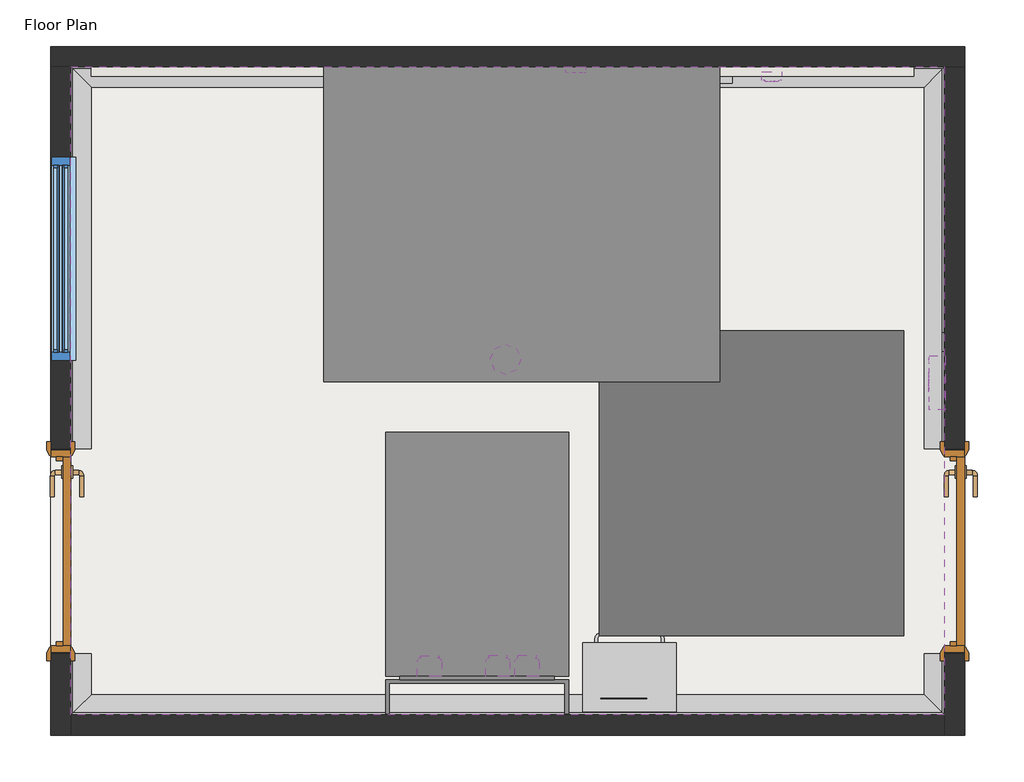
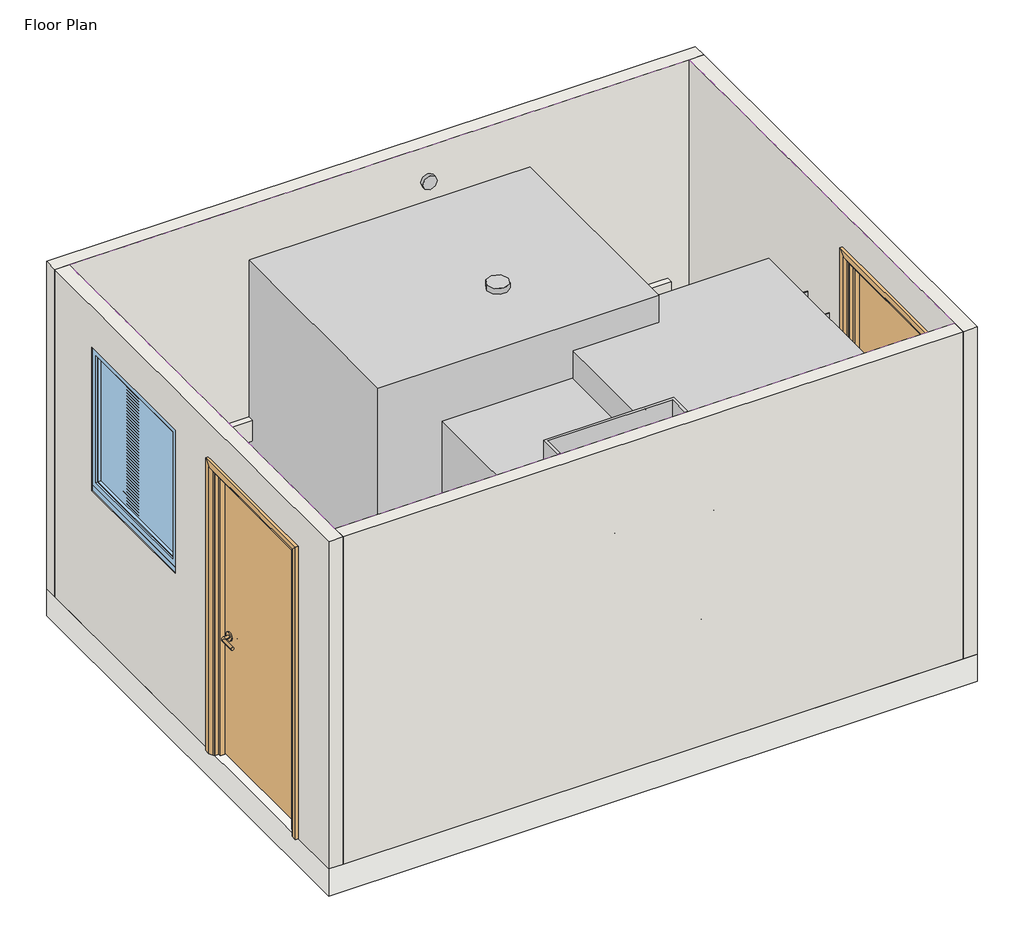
# One storey: 15 proxies, 9 furniture elements, 5 walls, 2 doors, 2 flow terminals, 1 covering, 1 slab, 1 window.
"""IFC4 building model written with IfcOpenShell, lengths in millimetres."""

from ifc_helpers import new_model, si_unit, frame, origin, origin_with_axes, place, context, project, spatial, polyline, circle_curve, ellipse_curve, outline, extrude, faceted_brep, transform, mapped, element, save
from ifc_brep_helpers import plane_surface, revolved_surface, advanced_brep
from components import generic_models_cdc84ac3, generic_models_abbf64a3, generic_models_972189fc, bimhealth_electrical_data_point_v1_type_1_559430e2, bimhealth_electrical_double_socket_v1_type_1_a33e6646, bimhealth_electrical_light_switch_v1_type_1_b5e59f8a, bimhealth_electrical_panic_alarm_v1_type_1_f5d69f13, bimhealth_electrical_smoke_detector_v1_bimhealth_electrical_fe9fcb6c, type_1_6de7a62d, door_1010x2110mm_f9eb5fde, flow_terminal_004a381b, flow_terminal_30861e1c, furniture_3d3374f5, furniture_385ba860, furniture_c6a9ce10, furniture_29951476, furniture_166ce8d1, furniture_26d36cfe, furniture_fb8e9059, furniture_1c857b10, window_e51dcf83

model = new_model("IFC4")

# Units and contexts
model_context = context("Model", 3, world=origin())
ifc_project = project(units=[si_unit("LENGTHUNIT", "METRE", prefix="MILLI")], contexts=[model_context])

# Site, building, storey
site = spatial("IfcSite", under=ifc_project)
building = spatial("IfcBuilding", under=site)
storey = spatial("IfcBuildingStorey", under=building, Name="Floor Plan", Elevation=0.0)

# Proxies
placement = place(None, origin())
element("IfcBuildingElementProxy", 1, Name="Wall Sweeps", at=placement, inside=storey, context=model_context, shape_type="AdvancedBrep", body=[
    advanced_brep(
    [(5.0, 5.0, 0.0), (105.0, 105.0, 0.0), (105.0, 105.0, 10.0), (15.0, 15.0, 100.0), (5.0, 5.0, 100.0), (5.0, 305.0, 0.0), (5.0, 305.0, 100.0), (15.0, 305.0, 100.0), (105.0, 305.0, 10.0), (105.0, 305.0, 0.0)],
    [
        (0, 1),
        (1, 2),
        (2, 3, ellipse_curve(frame((105.0, 105.0, 100.0), z_axis=(-0.707106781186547, 0.7071067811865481, 0.0), x_axis=(0.7071067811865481, 0.7071067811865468, 0.0)), 127.2792206, 90.0)),
        (3, 4),
        (4, 0),
        (5, 6),
        (6, 7),
        (7, 8, circle_curve(frame((105.0, 305.0, 100.0), z_axis=(0.0, -1.0, 0.0), x_axis=(1.0, 0.0, 0.0)), 90.0)),
        (8, 9),
        (9, 5),
        (4, 6),
        (5, 0),
        (3, 7),
        (2, 8),
        (1, 9),
    ],
    [
        plane_surface(frame((5.0, 5.0, 304.8), z_axis=(0.707106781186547, -0.7071067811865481, 0.0), x_axis=(0.7071067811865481, 0.707106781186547, 0.0))),
        plane_surface(frame((-95.4987562, 305.0, 0.0), z_axis=(0.0, 1.0, 0.0), x_axis=(0.0, 0.0, 1.0))),
        plane_surface(frame((5.0, 5.0, 100.0), z_axis=(-1.0, 0.0, 0.0), x_axis=(0.0, 1.0, 0.0))),
        plane_surface(frame((15.0, 15.0, 100.0), z_axis=(0.0, 0.0, 1.0), x_axis=(0.0, 1.0, 0.0))),
        revolved_surface(polyline([(195.0, 305.0, 100.0), (195.0, 15.0, 100.0)]), (105.0, 5.0, 100.0), (0.0, 1.0, 0.0)),
        plane_surface(frame((105.0, 105.0, 0.0), z_axis=(1.0, 0.0, 0.0), x_axis=(0.0, 1.0, 0.0))),
        plane_surface(frame((5.0, 5.0, 0.0), z_axis=(0.0, 0.0, -1.0), x_axis=(0.0, 1.0, 0.0))),
    ],
    [
        (0, [[1, 2, 3, 4, 5]]),
        (1, [[6, 7, 8, 9, 10]]),
        (2, [[-5, 11, -6, 12]]),
        (3, [[-4, 13, -7, -11]]),
        (4, [[-3, 14, -8, -13]]),
        (5, [[-2, 15, -9, -14]]),
        (6, [[-1, -12, -10, -15]]),
    ],
),
    advanced_brep(
    [(5.0, 1315.0, 0.0), (105.0, 1315.0, 0.0), (105.0, 1315.0, 10.0), (15.0, 1315.0, 100.0), (5.0, 1315.0, 100.0), (5.0, 3195.0, 0.0), (5.0, 3195.0, 100.0), (15.0, 3185.0, 100.0), (105.0, 3095.0, 10.0), (105.0, 3095.0, 0.0)],
    [
        (0, 1),
        (1, 2),
        (2, 3, circle_curve(frame((105.0, 1315.0, 100.0), z_axis=(0.0, 1.0, 0.0), x_axis=(1.0, 0.0, 0.0)), 90.0)),
        (3, 4),
        (4, 0),
        (5, 6),
        (6, 7),
        (7, 8, ellipse_curve(frame((105.0, 3095.0, 100.0), z_axis=(-0.7071067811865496, -0.7071067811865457, 0.0), x_axis=(-0.7071067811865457, 0.7071067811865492, 0.0)), 127.2792206, 90.0)),
        (8, 9),
        (9, 5),
        (0, 5),
        (9, 1),
        (8, 2),
        (7, 3),
        (6, 4),
    ],
    [
        plane_surface(frame((-95.4987562, 1315.0, 0.0), z_axis=(0.0, -1.0, 0.0), x_axis=(0.0, 0.0, 1.0))),
        plane_surface(frame((5.0, 3195.0, 304.8), z_axis=(0.7071067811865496, 0.7071067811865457, 0.0), x_axis=(0.7071067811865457, -0.7071067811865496, 0.0))),
        plane_surface(frame((5.0, 1315.0, 0.0), z_axis=(0.0, 0.0, -1.0), x_axis=(0.0, 1.0, 0.0))),
        plane_surface(frame((105.0, 1315.0, 0.0), z_axis=(1.0, 0.0, 0.0), x_axis=(0.0, 1.0, 0.0))),
        revolved_surface(polyline([(195.0, 3185.0, 100.0), (195.0, 1315.0, 100.0)]), (105.0, 1315.0, 100.0), (0.0, 1.0, 0.0)),
        plane_surface(frame((15.0, 1315.0, 100.0), z_axis=(0.0, 0.0, 1.0), x_axis=(0.0, 1.0, 0.0))),
        plane_surface(frame((5.0, 1315.0, 100.0), z_axis=(-1.0, 0.0, 0.0), x_axis=(0.0, 1.0, 0.0))),
    ],
    [
        (0, [[1, 2, 3, 4, 5]]),
        (1, [[6, 7, 8, 9, 10]]),
        (2, [[-1, 11, -10, 12]]),
        (3, [[-2, -12, -9, 13]]),
        (4, [[-3, -13, -8, 14]]),
        (5, [[-4, -14, -7, 15]]),
        (6, [[-5, -15, -6, -11]]),
    ],
),
])
element("IfcBuildingElementProxy", 2, Name="Wall Sweeps", at=placement, inside=storey, context=model_context, shape_type="AdvancedBrep", body=[
    advanced_brep(
    [(5.0, 3195.0, 0.0), (105.0, 3095.0, 0.0), (105.0, 3095.0, 10.0), (15.0, 3185.0, 100.0), (5.0, 3195.0, 100.0), (4305.0, 3195.0, 0.0), (4305.0, 3195.0, 100.0), (4295.0, 3185.0, 100.0), (4205.0, 3095.0, 10.0), (4205.0, 3095.0, 0.0)],
    [
        (0, 1),
        (1, 2),
        (2, 3, ellipse_curve(frame((105.0, 3095.0, 100.0), z_axis=(0.7071067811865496, 0.7071067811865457, 0.0), x_axis=(0.7071067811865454, -0.7071067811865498, 0.0)), 127.2792206, 90.0)),
        (3, 4),
        (4, 0),
        (5, 6),
        (6, 7),
        (7, 8, ellipse_curve(frame((4205.0, 3095.0, 100.0), z_axis=(-0.7071067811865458, 0.7071067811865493, 0.0), x_axis=(0.7071067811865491, 0.7071067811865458, 0.0)), 127.2792206, 90.0)),
        (8, 9),
        (9, 5),
        (4, 6),
        (5, 0),
        (3, 7),
        (2, 8),
        (1, 9),
    ],
    [
        plane_surface(frame((5.0, 3195.0, 304.8), z_axis=(-0.7071067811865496, -0.7071067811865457, 0.0), x_axis=(0.7071067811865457, -0.7071067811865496, 0.0))),
        plane_surface(frame((4305.0, 3195.0, 304.8), z_axis=(0.7071067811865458, -0.7071067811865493, 0.0), x_axis=(-0.7071067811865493, -0.7071067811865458, 0.0))),
        plane_surface(frame((5.0, 3195.0, 100.0), z_axis=(0.0, 1.0, 0.0), x_axis=(1.0, 0.0, 0.0))),
        plane_surface(frame((15.0, 3185.0, 100.0), z_axis=(0.0, 0.0, 1.0), x_axis=(1.0, 0.0, 0.0))),
        revolved_surface(polyline([(4295.0, 3005.0, 100.0), (15.0, 3005.0, 100.0)]), (5.0, 3095.0, 100.0), (1.0, 0.0, 0.0)),
        plane_surface(frame((105.0, 3095.0, 0.0), z_axis=(0.0, -1.0, 0.0), x_axis=(1.0, 0.0, 0.0))),
        plane_surface(frame((5.0, 3195.0, 0.0), z_axis=(0.0, 0.0, -1.0), x_axis=(1.0, 0.0, 0.0))),
    ],
    [
        (0, [[1, 2, 3, 4, 5]]),
        (1, [[6, 7, 8, 9, 10]]),
        (2, [[-5, 11, -6, 12]]),
        (3, [[-4, 13, -7, -11]]),
        (4, [[-3, 14, -8, -13]]),
        (5, [[-2, 15, -9, -14]]),
        (6, [[-1, -12, -10, -15]]),
    ],
),
])
element("IfcBuildingElementProxy", 3, Name="Wall Sweeps", at=placement, inside=storey, context=model_context, shape_type="AdvancedBrep", body=[
    advanced_brep(
    [(4305.0, 3195.0, 0.0), (4205.0, 3095.0, 0.0), (4205.0, 3095.0, 10.0), (4295.0, 3185.0, 100.0), (4305.0, 3195.0, 100.0), (4305.0, 1315.0, 0.0), (4305.0, 1315.0, 100.0), (4295.0, 1315.0, 100.0), (4205.0, 1315.0, 10.0), (4205.0, 1315.0, 0.0)],
    [
        (0, 1),
        (1, 2),
        (2, 3, ellipse_curve(frame((4205.0, 3095.0, 100.0), z_axis=(0.7071067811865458, -0.7071067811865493, 0.0), x_axis=(-0.7071067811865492, -0.7071067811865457, 0.0)), 127.2792206, 90.0)),
        (3, 4),
        (4, 0),
        (5, 6),
        (6, 7),
        (7, 8, circle_curve(frame((4205.0, 1315.0, 100.0), z_axis=(0.0, 1.0, 0.0), x_axis=(-1.0, 0.0, 0.0)), 90.0)),
        (8, 9),
        (9, 5),
        (4, 6),
        (5, 0),
        (3, 7),
        (2, 8),
        (1, 9),
    ],
    [
        plane_surface(frame((4305.0, 3195.0, 304.8), z_axis=(-0.7071067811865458, 0.7071067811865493, 0.0), x_axis=(-0.7071067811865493, -0.7071067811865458, 0.0))),
        plane_surface(frame((4204.5012438, 1315.0, 0.0), z_axis=(0.0, -1.0, 0.0), x_axis=(0.0, 0.0, -1.0))),
        plane_surface(frame((4305.0, 3195.0, 100.0), z_axis=(1.0, 0.0, 0.0), x_axis=(0.0, -1.0, 0.0))),
        plane_surface(frame((4295.0, 3185.0, 100.0), z_axis=(0.0, 0.0, 1.0), x_axis=(0.0, -1.0, 0.0))),
        revolved_surface(polyline([(4115.0, 1315.0, 100.0), (4115.0, 3185.0, 100.0)]), (4205.0, 3195.0, 100.0), (0.0, -1.0, 0.0)),
        plane_surface(frame((4205.0, 3095.0, 0.0), z_axis=(-1.0, 0.0, 0.0), x_axis=(0.0, -1.0, 0.0))),
        plane_surface(frame((4305.0, 3195.0, 0.0), z_axis=(0.0, 0.0, -1.0), x_axis=(0.0, -1.0, 0.0))),
    ],
    [
        (0, [[1, 2, 3, 4, 5]]),
        (1, [[6, 7, 8, 9, 10]]),
        (2, [[-5, 11, -6, 12]]),
        (3, [[-4, 13, -7, -11]]),
        (4, [[-3, 14, -8, -13]]),
        (5, [[-2, 15, -9, -14]]),
        (6, [[-1, -12, -10, -15]]),
    ],
),
    advanced_brep(
    [(4305.0, 305.0, 0.0), (4205.0, 305.0, 0.0), (4205.0, 305.0, 10.0), (4295.0, 305.0, 100.0), (4305.0, 305.0, 100.0), (4305.0, 5.0, 0.0), (4305.0, 5.0, 100.0), (4295.0, 15.0, 100.0), (4205.0, 105.0, 10.0), (4205.0, 105.0, 0.0)],
    [
        (0, 1),
        (1, 2),
        (2, 3, circle_curve(frame((4205.0, 305.0, 100.0), z_axis=(0.0, -1.0, 0.0), x_axis=(-1.0, 0.0, 0.0)), 90.0)),
        (3, 4),
        (4, 0),
        (5, 6),
        (6, 7),
        (7, 8, ellipse_curve(frame((4205.0, 105.0, 100.0), z_axis=(0.7071067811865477, 0.7071067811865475, 0.0), x_axis=(0.7071067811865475, -0.7071067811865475, 0.0)), 127.2792206, 90.0)),
        (8, 9),
        (9, 5),
        (0, 5),
        (9, 1),
        (8, 2),
        (7, 3),
        (6, 4),
    ],
    [
        plane_surface(frame((4204.5012438, 305.0, 0.0), z_axis=(0.0, 1.0, 0.0), x_axis=(0.0, 0.0, -1.0))),
        plane_surface(frame((4305.0, 5.0, 304.8), z_axis=(-0.7071067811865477, -0.7071067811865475, 0.0), x_axis=(-0.7071067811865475, 0.7071067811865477, 0.0))),
        plane_surface(frame((4305.0, 305.0, 0.0), z_axis=(0.0, 0.0, -1.0), x_axis=(0.0, -1.0, 0.0))),
        plane_surface(frame((4205.0, 305.0, 0.0), z_axis=(-1.0, 0.0, 0.0), x_axis=(0.0, -1.0, 0.0))),
        revolved_surface(polyline([(4115.0, 15.0, 100.0), (4115.0, 305.0, 100.0)]), (4205.0, 305.0, 100.0), (0.0, -1.0, 0.0)),
        plane_surface(frame((4295.0, 305.0, 100.0), z_axis=(0.0, 0.0, 1.0), x_axis=(0.0, -1.0, 0.0))),
        plane_surface(frame((4305.0, 305.0, 100.0), z_axis=(1.0, 0.0, 0.0), x_axis=(0.0, -1.0, 0.0))),
    ],
    [
        (0, [[1, 2, 3, 4, 5]]),
        (1, [[6, 7, 8, 9, 10]]),
        (2, [[-1, 11, -10, 12]]),
        (3, [[-2, -12, -9, 13]]),
        (4, [[-3, -13, -8, 14]]),
        (5, [[-4, -14, -7, 15]]),
        (6, [[-5, -15, -6, -11]]),
    ],
),
])
element("IfcBuildingElementProxy", 4, Name="Wall Sweeps", at=placement, inside=storey, context=model_context, shape_type="AdvancedBrep", body=[
    advanced_brep(
    [(4305.0, 5.0, 0.0), (4205.0, 105.0, 0.0), (4205.0, 105.0, 10.0), (4295.0, 15.0, 100.0), (4305.0, 5.0, 100.0), (5.0, 5.0, 0.0), (5.0, 5.0, 100.0), (15.0, 15.0, 100.0), (105.0, 105.0, 10.0), (105.0, 105.0, 0.0)],
    [
        (0, 1),
        (1, 2),
        (2, 3, ellipse_curve(frame((4205.0, 105.0, 100.0), z_axis=(-0.7071067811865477, -0.7071067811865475, 0.0), x_axis=(-0.7071067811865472, 0.7071067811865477, 0.0)), 127.2792206, 90.0)),
        (3, 4),
        (4, 0),
        (5, 6),
        (6, 7),
        (7, 8, ellipse_curve(frame((105.0, 105.0, 100.0), z_axis=(0.707106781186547, -0.7071067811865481, 0.0), x_axis=(-0.7071067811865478, -0.707106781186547, 0.0)), 127.2792206, 90.0)),
        (8, 9),
        (9, 5),
        (4, 6),
        (5, 0),
        (3, 7),
        (2, 8),
        (1, 9),
    ],
    [
        plane_surface(frame((4305.0, 5.0, 304.8), z_axis=(0.7071067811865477, 0.7071067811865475, 0.0), x_axis=(-0.7071067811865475, 0.7071067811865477, 0.0))),
        plane_surface(frame((5.0, 5.0, 304.8), z_axis=(-0.707106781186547, 0.7071067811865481, 0.0), x_axis=(0.7071067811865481, 0.707106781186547, 0.0))),
        plane_surface(frame((4305.0, 5.0, 100.0), z_axis=(0.0, -1.0, 0.0), x_axis=(-1.0, 0.0, 0.0))),
        plane_surface(frame((4295.0, 15.0, 100.0), z_axis=(0.0, 0.0, 1.0), x_axis=(-1.0, 0.0, 0.0))),
        revolved_surface(polyline([(15.0, 195.0, 100.0), (4295.0, 195.0, 100.0)]), (4305.0, 105.0, 100.0), (-1.0, 0.0, 0.0)),
        plane_surface(frame((4205.0, 105.0, 0.0), z_axis=(0.0, 1.0, 0.0), x_axis=(-1.0, 0.0, 0.0))),
        plane_surface(frame((4305.0, 5.0, 0.0), z_axis=(0.0, 0.0, -1.0), x_axis=(-1.0, 0.0, 0.0))),
    ],
    [
        (0, [[1, 2, 3, 4, 5]]),
        (1, [[6, 7, 8, 9, 10]]),
        (2, [[-5, 11, -6, 12]]),
        (3, [[-4, 13, -7, -11]]),
        (4, [[-3, 14, -8, -13]]),
        (5, [[-2, 15, -9, -14]]),
        (6, [[-1, -12, -10, -15]]),
    ],
),
])
generic_models_shape = generic_models_cdc84ac3(model_context)
element("IfcBuildingElementProxy", 5, Name="BIMHealth-Glove_Dispenser-LOD2A-v1 : BIMHealth-Glove_Dispenser-LOD2A-v1", ObjectType="BIMHealth-Glove_Dispenser-LOD2A-v1 : BIMHealth-Glove_Dispenser-LOD2A-v1", at=placement, inside=storey, context=model_context, shape_type="MappedRepresentation", body=[
    mapped(generic_models_shape, transform((4310.0, 1773.0, 0.0), x_axis=(0.0, -1.0000000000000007, 0.0), y_axis=(1.0000000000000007, 0.0, 0.0), z_axis=(0.0, 0.0, 1.0))),
])
generic_models_2_shape = generic_models_abbf64a3(model_context)
element("IfcBuildingElementProxy", 6, Name="BIMHealth-Hand_Cream_Dispenser-LOD2A-v1 : BIMHealth-Hand_Cream_Dispenser-LOD2A-v1", ObjectType="BIMHealth-Hand_Cream_Dispenser-LOD2A-v1 : BIMHealth-Hand_Cream_Dispenser-LOD2A-v1", at=placement, inside=storey, context=model_context, shape_type="MappedRepresentation", body=[
    mapped(generic_models_2_shape, transform((2166.6115799, 196.0, 150.0), x_axis=(-1.0000000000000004, 0.0, 0.0), y_axis=(0.0, -1.0000000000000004, 0.0), z_axis=(0.0, 0.0, 1.0))),
])
generic_models_3_shape = generic_models_972189fc(model_context)
element("IfcBuildingElementProxy", 7, Name="BIMHealth-Wheelchair_Zone-LOD2A-v1 : BIMHealth-Wheelchair_Zone-LOD2A-v1", ObjectType="BIMHealth-Wheelchair_Zone-LOD2A-v1 : BIMHealth-Wheelchair_Zone-LOD2A-v1", at=placement, inside=storey, context=model_context, shape_type="MappedRepresentation", body=[
    mapped(generic_models_3_shape, transform((2605.0, 1895.0, 0.0), x_axis=(1.0, 0.0, 0.0), y_axis=(0.0, 1.0, 0.0), z_axis=(0.0, 0.0, 1.0))),
])
bimhealth_electrical_data_point_v1_type_1_shape = bimhealth_electrical_data_point_v1_type_1_559430e2(model_context)
element("IfcBuildingElementProxy", 8, Name="BIMHealth-Electrical-Data_Point-v1 : Type 1", ObjectType="BIMHealth-Electrical-Data_Point-v1 : Type 1", at=placement, inside=storey, context=model_context, shape_type="MappedRepresentation", body=[
    mapped(bimhealth_electrical_data_point_v1_type_1_shape, transform((2246.3797993, 3175.0, -15.0), x_axis=(-1.0, 0.0, 0.0), y_axis=(0.0, -1.0, 0.0), z_axis=(0.0, 0.0, 1.0))),
])
bimhealth_electrical_double_socket_v1_type_1_shape = bimhealth_electrical_double_socket_v1_type_1_a33e6646(model_context)
element("IfcBuildingElementProxy", 9, Name="BIMHealth-Electrical-Double_Socket-v1 : Type 1", ObjectType="BIMHealth-Electrical-Double_Socket-v1 : Type 1", at=placement, inside=storey, context=model_context, shape_type="MappedRepresentation", body=[
    mapped(bimhealth_electrical_double_socket_v1_type_1_shape, transform((3186.3797993, 3175.0, 285.0), x_axis=(-1.0, 0.0, 0.0), y_axis=(0.0, -1.0, 0.0), z_axis=(0.0, 0.0, 1.0))),
])
element("IfcBuildingElementProxy", 10, Name="BIMHealth-Electrical-Double_Socket-v1 : Type 1", ObjectType="BIMHealth-Electrical-Double_Socket-v1 : Type 1", at=placement, inside=storey, context=model_context, shape_type="MappedRepresentation", body=[
    mapped(bimhealth_electrical_double_socket_v1_type_1_shape, transform((3386.3797993, 3175.0, 285.0), x_axis=(-1.0, 0.0, 0.0), y_axis=(0.0, -1.0, 0.0), z_axis=(0.0, 0.0, 1.0))),
])
bimhealth_electrical_light_switch_v1_type_1_shape = bimhealth_electrical_light_switch_v1_type_1_b5e59f8a(model_context)
element("IfcBuildingElementProxy", 11, Name="BIMHealth-Electrical-Light_Switch-v1 : Type 1", ObjectType="BIMHealth-Electrical-Light_Switch-v1 : Type 1", at=placement, inside=storey, context=model_context, shape_type="MappedRepresentation", body=[
    mapped(bimhealth_electrical_light_switch_v1_type_1_shape, transform((4355.0, 1670.0, -60.0), x_axis=(0.0, 1.0, 0.0), y_axis=(-1.0, 0.0, 0.0), z_axis=(0.0, 0.0, 1.0))),
])
bimhealth_electrical_panic_alarm_v1_type_1_shape = bimhealth_electrical_panic_alarm_v1_type_1_f5d69f13(model_context)
element("IfcBuildingElementProxy", 12, Name="BIMHealth-Electrical-Panic_Alarm-v1 : Type 1", ObjectType="BIMHealth-Electrical-Panic_Alarm-v1 : Type 1", at=placement, inside=storey, context=model_context, shape_type="MappedRepresentation", body=[
    mapped(bimhealth_electrical_panic_alarm_v1_type_1_shape, transform((3630.0, 3245.0, 0.0), x_axis=(-1.0, 0.0, 0.0), y_axis=(0.0, -1.0, 0.0), z_axis=(0.0, 0.0, 1.0))),
])
bimhealth_electrical_smoke_detector_v1_bimhealth_electrical_shape = bimhealth_electrical_smoke_detector_v1_bimhealth_electrical_fe9fcb6c(model_context)
element("IfcBuildingElementProxy", 13, Name="BIMHealth-Electrical-Smoke_Detector-v1 : BIMHealth-Electrical-Smoke_Detector-v1", ObjectType="BIMHealth-Electrical-Smoke_Detector-v1 : BIMHealth-Electrical-Smoke_Detector-v1", at=placement, inside=storey, context=model_context, shape_type="MappedRepresentation", body=[
    mapped(bimhealth_electrical_smoke_detector_v1_bimhealth_electrical_shape, transform((2145.0, 1755.0, -38.4), x_axis=(1.0, 0.0, 0.0), y_axis=(0.0, 1.0, 0.0), z_axis=(0.0, 0.0, 1.0))),
])
element("IfcBuildingElementProxy", 14, Name="BIMHealth-Electrical-Telephone_Point-v1 : Type 1", ObjectType="BIMHealth-Electrical-Telephone_Point-v1 : Type 1", at=placement, inside=storey, context=model_context, shape_type="MappedRepresentation", body=[
    mapped(bimhealth_electrical_data_point_v1_type_1_shape, transform((2436.3797993, 3175.0, -15.0), x_axis=(-1.0, 0.0, 0.0), y_axis=(0.0, -1.0, 0.0), z_axis=(0.0, 0.0, 1.0))),
])
type_1_shape = type_1_6de7a62d(model_context)
element("IfcBuildingElementProxy", 15, Name="BIMHealth-Electrical-Alarm_Sounder-v1 : Type 1", ObjectType="BIMHealth-Electrical-Alarm_Sounder-v1 : Type 1", at=placement, inside=storey, context=model_context, shape_type="MappedRepresentation", body=[
    mapped(type_1_shape, transform((2665.0, 3245.0, 0.0), x_axis=(-1.0, 0.0, 0.0), y_axis=(0.0, -1.0, 0.0), z_axis=(0.0, 0.0, 1.0))),
])

# Covering
element("IfcCovering", 16, ObjectType="BIMHealth - Generic Ceiling", at=placement, inside=storey, context=model_context, shape_type="SweptSolid", body=[
    extrude(outline(polyline([(4305.0, 3195.0), (4305.0, 5.0), (5.0, 5.0), (5.0, 3195.0), (4305.0, 3195.0)])), frame((0.0, 0.0, 2400.0), z_axis=(0.0, 0.0, 1.0), x_axis=(1.0, 0.0, 0.0)), (0.0, 0.0, 1.0), 52.0),
])

# Doors
door_1010x2110mm_shape = door_1010x2110mm_f9eb5fde(model_context)
element("IfcDoor", 17, ObjectType="BIMHealth-Single_Door-LOD2A-v1 : 1010x2110mm", at=placement, inside=storey, context=model_context, shape_type="MappedRepresentation", body=[
    mapped(door_1010x2110mm_shape, transform((-45.0, 810.0, 0.0), x_axis=(0.0, -1.0, 0.0), y_axis=(1.0, 0.0, 0.0), z_axis=(0.0, 0.0, 1.0))),
])
element("IfcDoor", 18, ObjectType="BIMHealth-Single_Door-LOD2A-v1 : 1010x2110mm", at=placement, inside=storey, context=model_context, shape_type="MappedRepresentation", body=[
    mapped(door_1010x2110mm_shape, transform((4355.0, 810.0, 0.0), x_axis=(0.0, -1.0, 0.0), y_axis=(1.0, 0.0, 0.0), z_axis=(0.0, 0.0, 1.0))),
])

# Flow terminals
flow_terminal_shape = flow_terminal_004a381b(model_context)
element("IfcFlowTerminal", 19, ObjectType="BIMHealth-Taps_IPS-LOD2A-v1 : BIMHealth-Taps_IPS-LOD2A-v1", at=placement, inside=storey, context=model_context, shape_type="MappedRepresentation", body=[
    mapped(flow_terminal_shape, transform((2165.0, 254.1543621, 1022.0), x_axis=(-1.0000000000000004, 0.0, 0.0), y_axis=(0.0, -1.0000000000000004, 0.0), z_axis=(0.0, 0.0, 1.0))),
])
flow_terminal_2_shape = flow_terminal_30861e1c(model_context)
element("IfcFlowTerminal", 20, ObjectType="BIMHealth-Wash_basin-LOD2A-v1 : BIMHealth-Wash_basin-LOD2A-v1", at=placement, inside=storey, context=model_context, shape_type="MappedRepresentation", body=[
    mapped(flow_terminal_2_shape, transform((2255.0, 196.0, 500.0), x_axis=(-1.0, 0.0, 0.0), y_axis=(0.0, -1.0, 0.0), z_axis=(0.0, 0.0, 1.0))),
])

# Furniture
furniture_shape = furniture_3d3374f5(model_context)
element("IfcFurniture", 21, ObjectType="BIMHealth-Washstation-LOD2A-v1 : BIMHealth-Washstation-LOD2A-v1", at=placement, inside=storey, context=model_context, shape_type="MappedRepresentation", body=[
    mapped(furniture_shape, transform((1555.0, 10.0, 0.0), x_axis=(-1.0000000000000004, 0.0, 0.0), y_axis=(0.0, -1.0000000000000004, 0.0), z_axis=(0.0, 0.0, 1.0))),
])
furniture_2_shape = furniture_385ba860(model_context)
element("IfcFurniture", 22, ObjectType="BIMHealth-Alcohol_gel_dispenser-LOD2A-v1 : BIMHealth-Alcohol_gel_dispenser-LOD2A-v1", at=placement, inside=storey, context=model_context, shape_type="MappedRepresentation", body=[
    mapped(furniture_2_shape, transform((1830.0732788, 196.0, 150.0), x_axis=(-1.0, 0.0, 0.0), y_axis=(0.0, -1.0, 0.0), z_axis=(0.0, 0.0, 1.0))),
])
element("IfcFurniture", 23, ObjectType="BIMHealth-Alcohol_gel_dispenser-LOD2A-v1 : BIMHealth-Alcohol_gel_dispenser-LOD2A-v1", at=placement, inside=storey, context=model_context, shape_type="MappedRepresentation", body=[
    mapped(furniture_2_shape, transform((2626.2841824, 3200.0, -300.0), x_axis=(1.0, 0.0, 0.0), y_axis=(0.0, 1.0, 0.0), z_axis=(0.0, 0.0, 1.0))),
])
furniture_3_shape = furniture_c6a9ce10(model_context)
element("IfcFurniture", 24, ObjectType="BIMHealth-Bin_Clinical_Foot_Operated-LOD2A-v1 : BIMHealth-Bin_Clinical_Foot_Operated-LOD2A-v1", at=placement, inside=storey, context=model_context, shape_type="MappedRepresentation", body=[
    mapped(furniture_3_shape, transform((2975.0, 30.0, 0.0), x_axis=(-1.0000000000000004, 0.0, 0.0), y_axis=(0.0, -1.0000000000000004, 0.0), z_axis=(0.0, 0.0, 1.0))),
])
furniture_4_shape = furniture_29951476(model_context)
element("IfcFurniture", 25, ObjectType="BIMHealth-Mirror_Consultation-LOD2A-v1 : BIMHealth-Mirror_Consultation-LOD2A-v1", at=placement, inside=storey, context=model_context, shape_type="MappedRepresentation", body=[
    mapped(furniture_4_shape, transform((3305.0, 5.0, 0.0), x_axis=(1.0, 0.0, 0.0), y_axis=(0.0, 1.0, 0.0), z_axis=(0.0, 0.0, 1.0))),
])
furniture_5_shape = furniture_166ce8d1(model_context)
element("IfcFurniture", 26, ObjectType="BIMHealth-Paper_Towel_Dispenser-LOD2A-v1 : BIMHealth-Paper_Towel_Dispenser-LOD2A-v1", at=placement, inside=storey, context=model_context, shape_type="MappedRepresentation", body=[
    mapped(furniture_5_shape, transform((2866.1943692, 10.0, 20.0), x_axis=(-1.0000000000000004, 0.0, 0.0), y_axis=(0.0, -1.0000000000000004, 0.0), z_axis=(0.0, 0.0, 1.0))),
])
furniture_6_shape = furniture_26d36cfe(model_context)
element("IfcFurniture", 27, ObjectType="BIMHealth-Soap_Dispenser-LOD2A-v1 : BIMHealth-Soap_Dispenser-LOD2A-v1", at=placement, inside=storey, context=model_context, shape_type="MappedRepresentation", body=[
    mapped(furniture_6_shape, transform((2310.0732788, 196.0, 150.0), x_axis=(-1.0, 0.0, 0.0), y_axis=(0.0, -1.0, 0.0), z_axis=(0.0, 0.0, 1.0))),
])
furniture_7_shape = furniture_fb8e9059(model_context)
element("IfcFurniture", 28, ObjectType="BIMHealth-Chair_Consultant-LOD2A-v1 : BIMHealth-Chair_Consultant-LOD2A-v1", at=placement, inside=storey, context=model_context, shape_type="MappedRepresentation", body=[
    mapped(furniture_7_shape, transform((3127.2326381, 2800.0, 0.0), x_axis=(0.0, -1.0000000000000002, 0.0), y_axis=(1.0000000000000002, 0.0, 0.0), z_axis=(0.0, 0.0, 1.0))),
])
furniture_8_shape = furniture_1c857b10(model_context)
element("IfcFurniture", 29, ObjectType="BIMHealth-Desk_Consultant_1000x600-LOD2A-v1 : BIMHealth-Desk_Consultant_1000x600-LOD2A-v1", at=placement, inside=storey, context=model_context, shape_type="MappedRepresentation", body=[
    mapped(furniture_8_shape, transform((1850.0, 3145.0, 0.0), x_axis=(0.0, -1.0000000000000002, 0.0), y_axis=(1.0000000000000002, 0.0, 0.0), z_axis=(0.0, 0.0, 1.0))),
])

# Slab
element("IfcSlab", 30, ObjectType="BIMHealth - Generic Floor", at=placement, inside=storey, context=model_context, shape_type="SweptSolid", body=[
    extrude(outline(polyline([(4405.0, 3295.0), (4405.0, -95.0), (-95.0, -95.0), (-95.0, 3295.0), (4405.0, 3295.0)])), frame((0.0, 0.0, -200.0), z_axis=(0.0, 0.0, 1.0), x_axis=(1.0, 0.0, 0.0)), (0.0, 0.0, 1.0), 200.0),
])

# Walls
element("IfcWall", 31, ObjectType="BIMHealth - Generic Wall - Trunking", at=placement, inside=storey, context=model_context, shape_type="SweptSolid", body=[
    extrude(outline(polyline([(4155.0, 3150.0), (105.0, 3150.0), (105.0, 3200.0), (4155.0, 3200.0), (4155.0, 3150.0)])), frame((0.0, 0.0, 700.0), z_axis=(0.0, 0.0, 1.0), x_axis=(1.0, 0.0, 0.0)), (0.0, 0.0, 1.0), 150.0),
])
element("IfcWall", 32, ObjectType="BIMHealth - Generic Wall", at=placement, inside=storey, context=model_context, shape_type="Brep", body=[
    faceted_brep([(5.0, 3195.0, 2400.0), (5.0, 5.0, 2400.0), (5.0, -95.0, 2400.0), (5.0, -95.0, 0.0), (5.0, 5.0, 0.0), (5.0, 305.0, 0.0), (5.0, 305.0, 100.0), (5.0, 305.0, 2110.0), (5.0, 1315.0, 2110.0), (5.0, 1315.0, 100.0), (5.0, 1315.0, 0.0), (5.0, 3195.0, 0.0), (5.0, 1750.0, 2100.0), (5.0, 2750.0, 2100.0), (5.0, 2750.0, 1050.0), (5.0, 1750.0, 1050.0), (-95.0, -95.0, 2400.0), (-95.0, 3195.0, 2400.0), (-95.0, 3195.0, 0.0), (-95.0, 1315.0, 0.0), (-95.0, 1315.0, 2110.0), (-95.0, 305.0, 2110.0), (-95.0, 305.0, 0.0), (-95.0, -95.0, 0.0), (-95.0, 2750.0, 2100.0), (-95.0, 1750.0, 2100.0), (-95.0, 1750.0, 1050.0), (-95.0, 2750.0, 1050.0)], [[[0, 1, 2, 3, 4, 5, 6, 7, 8, 9, 10, 11], [12, 13, 14, 15]], [[16, 17, 18, 19, 20, 21, 22, 23], [24, 25, 26, 27]], [[3, 23, 22, 5, 4]], [[18, 11, 10, 19]], [[2, 1, 0, 17, 16]], [[3, 2, 16, 23]], [[0, 11, 18, 17]], [[21, 7, 6, 5, 22]], [[7, 21, 20, 8]], [[8, 20, 19, 10, 9]], [[24, 13, 12, 25]], [[25, 12, 15, 26]], [[26, 15, 14, 27]], [[13, 24, 27, 14]]]),
])
element("IfcWall", 33, ObjectType="BIMHealth - Generic Wall", at=placement, inside=storey, context=model_context, shape_type="Brep", body=[
    faceted_brep([(-95.0, 3195.0, 0.0), (5.0, 3195.0, 0.0), (4305.0, 3195.0, 0.0), (4405.0, 3195.0, 0.0), (4405.0, 3195.0, 2400.0), (4305.0, 3195.0, 2400.0), (5.0, 3195.0, 2400.0), (-95.0, 3195.0, 2400.0), (-95.0, 3295.0, 0.0), (-95.0, 3295.0, 2400.0), (4405.0, 3295.0, 2400.0), (4405.0, 3295.0, 0.0)], [[[0, 1, 2, 3, 4, 5, 6, 7]], [[8, 9, 10, 11]], [[3, 2, 1, 0, 8, 11]], [[7, 6, 5, 4, 10, 9]], [[4, 3, 11, 10]], [[0, 7, 9, 8]]]),
])
element("IfcWall", 34, ObjectType="BIMHealth - Generic Wall", at=placement, inside=storey, context=model_context, shape_type="Brep", body=[
    faceted_brep([(4305.0, -95.0, 2400.0), (4305.0, 5.0, 2400.0), (4305.0, 3195.0, 2400.0), (4305.0, 3195.0, 0.0), (4305.0, 1315.0, 0.0), (4305.0, 1315.0, 100.0), (4305.0, 1315.0, 2110.0), (4305.0, 305.0, 2110.0), (4305.0, 305.0, 100.0), (4305.0, 305.0, 0.0), (4305.0, 5.0, 0.0), (4305.0, -95.0, 0.0), (4405.0, 3195.0, 2400.0), (4405.0, -95.0, 2400.0), (4405.0, -95.0, 0.0), (4405.0, 305.0, 0.0), (4405.0, 305.0, 2110.0), (4405.0, 1315.0, 2110.0), (4405.0, 1315.0, 0.0), (4405.0, 3195.0, 0.0)], [[[0, 1, 2, 3, 4, 5, 6, 7, 8, 9, 10, 11]], [[12, 13, 14, 15, 16, 17, 18, 19]], [[3, 19, 18, 4]], [[14, 11, 10, 9, 15]], [[2, 1, 0, 13, 12]], [[3, 2, 12, 19]], [[0, 11, 14, 13]], [[7, 16, 15, 9, 8]], [[16, 7, 6, 17]], [[17, 6, 5, 4, 18]]]),
])
element("IfcWall", 35, ObjectType="BIMHealth - Generic Wall", at=placement, inside=storey, context=model_context, shape_type="SweptSolid", body=[
    extrude(outline(polyline([(5.0, 5.0), (4305.0, 5.0), (4305.0, -95.0), (5.0, -95.0), (5.0, 5.0)])), origin_with_axes(), (0.0, 0.0, 1.0), 2400.0),
])

# Window
window_shape = window_e51dcf83(model_context)
element("IfcWindow", 36, ObjectType="BIMHealth-Window_Vistamatic-LOD2A-v1 : BIMHealth-Window_Vistamatic-LOD2A-v1", at=placement, inside=storey, context=model_context, shape_type="MappedRepresentation", body=[
    mapped(window_shape, transform((-45.0, 2250.0, 0.0), x_axis=(0.0, -1.0, 0.0), y_axis=(1.0, 0.0, 0.0), z_axis=(0.0, 0.0, 1.0))),
])

save(model, "model.ifc")
